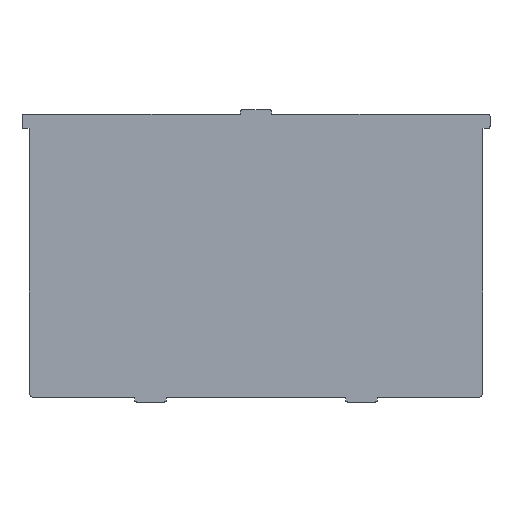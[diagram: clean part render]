
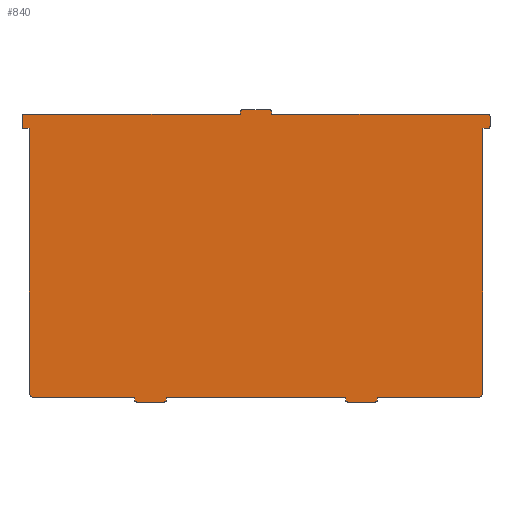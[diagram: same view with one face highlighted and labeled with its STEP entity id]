
A CAD part, top view. The second image highlights one B-rep face of the part: STEP entity #840.
In plain terms, the highlighted planar face has unit normal (0, 0, 1).
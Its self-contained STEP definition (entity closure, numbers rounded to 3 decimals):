
#213=CARTESIAN_POINT('',(52.,1.5,1.5));
#214=DIRECTION('',(0.,0.,1.));
#215=DIRECTION('',(-1.,0.,0.));
#216=AXIS2_PLACEMENT_3D('',#213,#214,#215);
#218=DIRECTION('',(0.,-1.,0.));
#219=VECTOR('',#218,1.5);
#220=CARTESIAN_POINT('',(51.,3.,1.5));
#221=LINE('',#220,#219);
#222=DIRECTION('',(1.,0.,0.));
#223=VECTOR('',#222,102.);
#224=CARTESIAN_POINT('',(-51.,3.,1.5));
#225=LINE('',#224,#223);
#226=DIRECTION('',(0.,1.,0.));
#227=VECTOR('',#226,1.5);
#228=CARTESIAN_POINT('',(-51.,1.5,1.5));
#229=LINE('',#228,#227);
#230=CARTESIAN_POINT('',(-52.,1.5,1.5));
#231=DIRECTION('',(0.,0.,1.));
#232=DIRECTION('',(0.,-1.,0.));
#233=AXIS2_PLACEMENT_3D('',#230,#231,#232);
#235=DIRECTION('',(1.,0.,0.));
#236=VECTOR('',#235,16.);
#237=CARTESIAN_POINT('',(-68.,0.5,1.5));
#238=LINE('',#237,#236);
#239=CARTESIAN_POINT('',(-68.,1.5,1.5));
#240=DIRECTION('',(0.,0.,1.));
#241=DIRECTION('',(-1.,0.,0.));
#242=AXIS2_PLACEMENT_3D('',#239,#240,#241);
#244=DIRECTION('',(0.,-1.,0.));
#245=VECTOR('',#244,1.5);
#246=CARTESIAN_POINT('',(-69.,3.,1.5));
#247=LINE('',#246,#245);
#248=DIRECTION('',(1.,0.,0.));
#249=VECTOR('',#248,57.);
#250=CARTESIAN_POINT('',(-126.,3.,1.5));
#251=LINE('',#250,#249);
#252=CARTESIAN_POINT('',(-126.,6.,1.5));
#253=DIRECTION('',(0.,0.,1.));
#254=DIRECTION('',(-1.,0.,0.));
#255=AXIS2_PLACEMENT_3D('',#252,#253,#254);
#257=DIRECTION('',(0.,-1.,0.));
#258=VECTOR('',#257,150.);
#259=CARTESIAN_POINT('',(-129.,156.,1.5));
#260=LINE('',#259,#258);
#261=DIRECTION('',(1.,0.,0.));
#262=VECTOR('',#261,3.);
#263=CARTESIAN_POINT('',(-132.,156.,1.5));
#264=LINE('',#263,#262);
#265=CARTESIAN_POINT('',(-132.,157.,1.5));
#266=DIRECTION('',(0.,0.,1.));
#267=DIRECTION('',(-1.,0.,0.));
#268=AXIS2_PLACEMENT_3D('',#265,#266,#267);
#270=DIRECTION('',(0.,-1.,0.));
#271=VECTOR('',#270,6.);
#272=CARTESIAN_POINT('',(-133.,163.,1.5));
#273=LINE('',#272,#271);
#274=CARTESIAN_POINT('',(-132.,163.,1.5));
#275=DIRECTION('',(0.,0.,1.));
#276=DIRECTION('',(0.,1.,0.));
#277=AXIS2_PLACEMENT_3D('',#274,#275,#276);
#279=DIRECTION('',(0.,-1.,0.));
#280=VECTOR('',#279,1.5);
#281=CARTESIAN_POINT('',(-9.,165.5,1.5));
#282=LINE('',#281,#280);
#283=CARTESIAN_POINT('',(-8.,165.5,1.5));
#284=DIRECTION('',(0.,0.,1.));
#285=DIRECTION('',(0.,1.,0.));
#286=AXIS2_PLACEMENT_3D('',#283,#284,#285);
#288=DIRECTION('',(-1.,0.,0.));
#289=VECTOR('',#288,16.);
#290=CARTESIAN_POINT('',(8.,166.5,1.5));
#291=LINE('',#290,#289);
#292=CARTESIAN_POINT('',(8.,165.5,1.5));
#293=DIRECTION('',(0.,0.,1.));
#294=DIRECTION('',(1.,0.,0.));
#295=AXIS2_PLACEMENT_3D('',#292,#293,#294);
#297=DIRECTION('',(0.,1.,0.));
#298=VECTOR('',#297,1.5);
#299=CARTESIAN_POINT('',(9.,164.,1.5));
#300=LINE('',#299,#298);
#301=CARTESIAN_POINT('',(132.,163.,1.5));
#302=DIRECTION('',(0.,0.,1.));
#303=DIRECTION('',(1.,0.,0.));
#304=AXIS2_PLACEMENT_3D('',#301,#302,#303);
#306=DIRECTION('',(0.,1.,0.));
#307=VECTOR('',#306,6.);
#308=CARTESIAN_POINT('',(133.,157.,1.5));
#309=LINE('',#308,#307);
#310=CARTESIAN_POINT('',(132.,157.,1.5));
#311=DIRECTION('',(0.,0.,1.));
#312=DIRECTION('',(0.,-1.,0.));
#313=AXIS2_PLACEMENT_3D('',#310,#311,#312);
#315=DIRECTION('',(1.,0.,0.));
#316=VECTOR('',#315,3.);
#317=CARTESIAN_POINT('',(129.,156.,1.5));
#318=LINE('',#317,#316);
#319=DIRECTION('',(0.,1.,0.));
#320=VECTOR('',#319,150.);
#321=CARTESIAN_POINT('',(129.,6.,1.5));
#322=LINE('',#321,#320);
#323=CARTESIAN_POINT('',(126.,6.,1.5));
#324=DIRECTION('',(0.,0.,1.));
#325=DIRECTION('',(0.,-1.,0.));
#326=AXIS2_PLACEMENT_3D('',#323,#324,#325);
#328=DIRECTION('',(1.,0.,0.));
#329=VECTOR('',#328,57.);
#330=CARTESIAN_POINT('',(69.,3.,1.5));
#331=LINE('',#330,#329);
#332=DIRECTION('',(0.,1.,0.));
#333=VECTOR('',#332,1.5);
#334=CARTESIAN_POINT('',(69.,1.5,1.5));
#335=LINE('',#334,#333);
#336=CARTESIAN_POINT('',(68.,1.5,1.5));
#337=DIRECTION('',(0.,0.,1.));
#338=DIRECTION('',(0.,-1.,0.));
#339=AXIS2_PLACEMENT_3D('',#336,#337,#338);
#341=DIRECTION('',(1.,0.,0.));
#342=VECTOR('',#341,16.);
#343=CARTESIAN_POINT('',(52.,0.5,1.5));
#344=LINE('',#343,#342);
#369=DIRECTION('',(-1.,0.,0.));
#370=VECTOR('',#369,123.);
#371=CARTESIAN_POINT('',(132.,164.,1.5));
#372=LINE('',#371,#370);
#385=DIRECTION('',(-1.,0.,0.));
#386=VECTOR('',#385,123.);
#387=CARTESIAN_POINT('',(-9.,164.,1.5));
#388=LINE('',#387,#386);
#438=CARTESIAN_POINT('',(-129.,156.,1.5));
#440=VERTEX_POINT('',#438);
#442=CARTESIAN_POINT('',(-69.,3.,1.5));
#444=VERTEX_POINT('',#442);
#446=CARTESIAN_POINT('',(-51.,3.,1.5));
#448=VERTEX_POINT('',#446);
#450=CARTESIAN_POINT('',(51.,3.,1.5));
#452=VERTEX_POINT('',#450);
#454=CARTESIAN_POINT('',(69.,3.,1.5));
#456=VERTEX_POINT('',#454);
#458=CARTESIAN_POINT('',(129.,156.,1.5));
#460=VERTEX_POINT('',#458);
#465=CARTESIAN_POINT('',(-129.,6.,1.5));
#466=VERTEX_POINT('',#465);
#467=CARTESIAN_POINT('',(-126.,3.,1.5));
#468=VERTEX_POINT('',#467);
#473=CARTESIAN_POINT('',(126.,3.,1.5));
#474=VERTEX_POINT('',#473);
#475=CARTESIAN_POINT('',(129.,6.,1.5));
#476=VERTEX_POINT('',#475);
#478=CARTESIAN_POINT('',(9.,164.,1.5));
#480=VERTEX_POINT('',#478);
#482=CARTESIAN_POINT('',(-9.,164.,1.5));
#484=VERTEX_POINT('',#482);
#489=CARTESIAN_POINT('',(51.,1.5,1.5));
#490=VERTEX_POINT('',#489);
#491=CARTESIAN_POINT('',(52.,0.5,1.5));
#492=VERTEX_POINT('',#491);
#497=CARTESIAN_POINT('',(68.,0.5,1.5));
#498=VERTEX_POINT('',#497);
#499=CARTESIAN_POINT('',(69.,1.5,1.5));
#500=VERTEX_POINT('',#499);
#505=CARTESIAN_POINT('',(-52.,0.5,1.5));
#506=VERTEX_POINT('',#505);
#507=CARTESIAN_POINT('',(-51.,1.5,1.5));
#508=VERTEX_POINT('',#507);
#513=CARTESIAN_POINT('',(-69.,1.5,1.5));
#514=VERTEX_POINT('',#513);
#515=CARTESIAN_POINT('',(-68.,0.5,1.5));
#516=VERTEX_POINT('',#515);
#521=CARTESIAN_POINT('',(132.,156.,1.5));
#522=VERTEX_POINT('',#521);
#523=CARTESIAN_POINT('',(133.,157.,1.5));
#524=VERTEX_POINT('',#523);
#529=CARTESIAN_POINT('',(133.,163.,1.5));
#530=VERTEX_POINT('',#529);
#531=CARTESIAN_POINT('',(132.,164.,1.5));
#532=VERTEX_POINT('',#531);
#537=CARTESIAN_POINT('',(-133.,157.,1.5));
#538=VERTEX_POINT('',#537);
#539=CARTESIAN_POINT('',(-132.,156.,1.5));
#540=VERTEX_POINT('',#539);
#545=CARTESIAN_POINT('',(-132.,164.,1.5));
#546=VERTEX_POINT('',#545);
#547=CARTESIAN_POINT('',(-133.,163.,1.5));
#548=VERTEX_POINT('',#547);
#553=CARTESIAN_POINT('',(9.,165.5,1.5));
#554=VERTEX_POINT('',#553);
#555=CARTESIAN_POINT('',(8.,166.5,1.5));
#556=VERTEX_POINT('',#555);
#561=CARTESIAN_POINT('',(-8.,166.5,1.5));
#562=VERTEX_POINT('',#561);
#563=CARTESIAN_POINT('',(-9.,165.5,1.5));
#564=VERTEX_POINT('',#563);
#779=CARTESIAN_POINT('',(0.,0.,1.5));
#780=DIRECTION('',(0.,0.,1.));
#781=DIRECTION('',(1.,0.,0.));
#782=AXIS2_PLACEMENT_3D('',#779,#780,#781);
#783=PLANE('',#782);
#784=ORIENTED_EDGE('',*,*,#645,.F.);
#785=ORIENTED_EDGE('',*,*,#661,.F.);
#786=ORIENTED_EDGE('',*,*,#673,.F.);
#787=ORIENTED_EDGE('',*,*,#717,.F.);
#788=ORIENTED_EDGE('',*,*,#732,.F.);
#789=ORIENTED_EDGE('',*,*,#747,.F.);
#790=ORIENTED_EDGE('',*,*,#760,.F.);
#791=ORIENTED_EDGE('',*,*,#774,.F.);
#792=ORIENTED_EDGE('',*,*,#687,.F.);
#794=ORIENTED_EDGE('',*,*,#793,.F.);
#796=ORIENTED_EDGE('',*,*,#795,.F.);
#798=ORIENTED_EDGE('',*,*,#797,.F.);
#800=ORIENTED_EDGE('',*,*,#799,.F.);
#802=ORIENTED_EDGE('',*,*,#801,.F.);
#804=ORIENTED_EDGE('',*,*,#803,.F.);
#806=ORIENTED_EDGE('',*,*,#805,.F.);
#808=ORIENTED_EDGE('',*,*,#807,.F.);
#810=ORIENTED_EDGE('',*,*,#809,.F.);
#812=ORIENTED_EDGE('',*,*,#811,.F.);
#814=ORIENTED_EDGE('',*,*,#813,.F.);
#816=ORIENTED_EDGE('',*,*,#815,.F.);
#818=ORIENTED_EDGE('',*,*,#817,.F.);
#820=ORIENTED_EDGE('',*,*,#819,.F.);
#822=ORIENTED_EDGE('',*,*,#821,.F.);
#824=ORIENTED_EDGE('',*,*,#823,.F.);
#826=ORIENTED_EDGE('',*,*,#825,.F.);
#828=ORIENTED_EDGE('',*,*,#827,.F.);
#830=ORIENTED_EDGE('',*,*,#829,.F.);
#831=ORIENTED_EDGE('',*,*,#705,.F.);
#833=ORIENTED_EDGE('',*,*,#832,.F.);
#835=ORIENTED_EDGE('',*,*,#834,.F.);
#837=ORIENTED_EDGE('',*,*,#836,.F.);
#838=EDGE_LOOP('',(#784,#785,#786,#787,#788,#789,#790,#791,#792,#794,#796,#798,
#800,#802,#804,#806,#808,#810,#812,#814,#816,#818,#820,#822,#824,#826,#828,#830,
#831,#833,#835,#837));
#839=FACE_OUTER_BOUND('',#838,.F.);
#217=CIRCLE('',#216,1.);
#234=CIRCLE('',#233,1.);
#243=CIRCLE('',#242,1.);
#256=CIRCLE('',#255,3.);
#269=CIRCLE('',#268,1.);
#278=CIRCLE('',#277,1.);
#287=CIRCLE('',#286,1.);
#296=CIRCLE('',#295,1.);
#305=CIRCLE('',#304,1.);
#314=CIRCLE('',#313,1.);
#327=CIRCLE('',#326,3.);
#340=CIRCLE('',#339,1.);
#645=EDGE_CURVE('',#490,#492,#217,.T.);
#661=EDGE_CURVE('',#452,#490,#221,.T.);
#673=EDGE_CURVE('',#448,#452,#225,.T.);
#687=EDGE_CURVE('',#468,#444,#251,.T.);
#705=EDGE_CURVE('',#456,#474,#331,.T.);
#717=EDGE_CURVE('',#508,#448,#229,.T.);
#732=EDGE_CURVE('',#506,#508,#234,.T.);
#747=EDGE_CURVE('',#516,#506,#238,.T.);
#760=EDGE_CURVE('',#514,#516,#243,.T.);
#774=EDGE_CURVE('',#444,#514,#247,.T.);
#793=EDGE_CURVE('',#466,#468,#256,.T.);
#795=EDGE_CURVE('',#440,#466,#260,.T.);
#797=EDGE_CURVE('',#540,#440,#264,.T.);
#799=EDGE_CURVE('',#538,#540,#269,.T.);
#801=EDGE_CURVE('',#548,#538,#273,.T.);
#803=EDGE_CURVE('',#546,#548,#278,.T.);
#805=EDGE_CURVE('',#484,#546,#388,.T.);
#807=EDGE_CURVE('',#564,#484,#282,.T.);
#809=EDGE_CURVE('',#562,#564,#287,.T.);
#811=EDGE_CURVE('',#556,#562,#291,.T.);
#813=EDGE_CURVE('',#554,#556,#296,.T.);
#815=EDGE_CURVE('',#480,#554,#300,.T.);
#817=EDGE_CURVE('',#532,#480,#372,.T.);
#819=EDGE_CURVE('',#530,#532,#305,.T.);
#821=EDGE_CURVE('',#524,#530,#309,.T.);
#823=EDGE_CURVE('',#522,#524,#314,.T.);
#825=EDGE_CURVE('',#460,#522,#318,.T.);
#827=EDGE_CURVE('',#476,#460,#322,.T.);
#829=EDGE_CURVE('',#474,#476,#327,.T.);
#832=EDGE_CURVE('',#500,#456,#335,.T.);
#834=EDGE_CURVE('',#498,#500,#340,.T.);
#836=EDGE_CURVE('',#492,#498,#344,.T.);
#840=ADVANCED_FACE('',(#839),#783,.T.);
